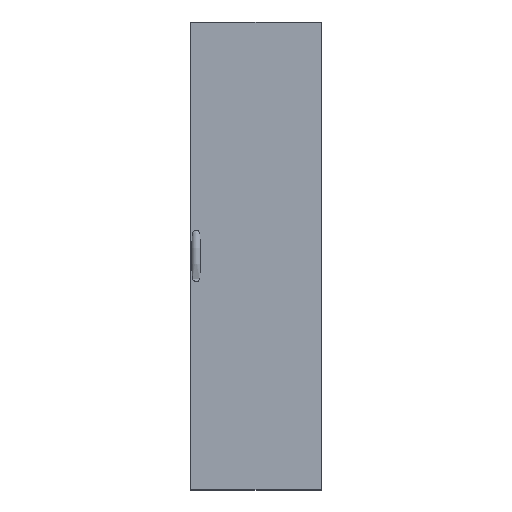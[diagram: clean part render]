
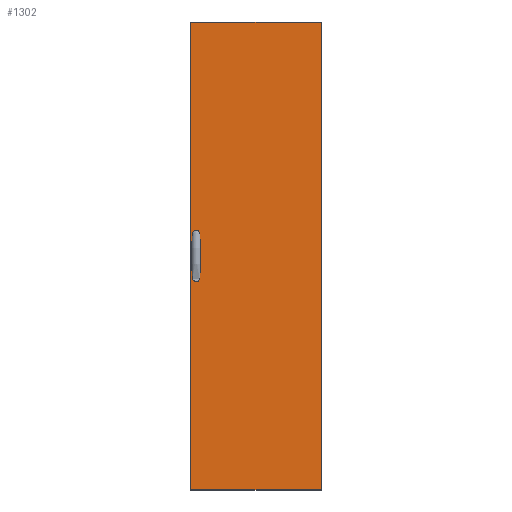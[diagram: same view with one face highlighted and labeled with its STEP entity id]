
A CAD part, top view. The second image highlights one B-rep face of the part: STEP entity #1302.
In plain terms, the highlighted planar face has unit normal (0, 0, 1) as drawn and (0, 0, -1) by its records, which use the part's own axes.
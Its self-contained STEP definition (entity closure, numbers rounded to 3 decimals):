
#1302 = ADVANCED_FACE( '', ( #2670, #2671, #2672, #2673 ), #2674, .F. );
#2670 = FACE_BOUND( '', #4049, .T. );
#2671 = FACE_OUTER_BOUND( '', #4050, .T. );
#2672 = FACE_BOUND( '', #4051, .T. );
#2673 = FACE_BOUND( '', #4052, .T. );
#2674 = PLANE( '', #4053 );
#4049 = EDGE_LOOP( '', ( #7687, #7688, #7689, #7690, #7691, #7692, #7693, #7694, #7695, #7696, #7697, #7698, #7699, #7700, #7701, #7702 ) );
#4050 = EDGE_LOOP( '', ( #7703, #7704, #7705, #7706 ) );
#4051 = EDGE_LOOP( '', ( #7707 ) );
#4052 = EDGE_LOOP( '', ( #7708 ) );
#4053 = AXIS2_PLACEMENT_3D( '', #7709, #7710, #7711 );
#7687 = ORIENTED_EDGE( '', *, *, #8731, .T. );
#7688 = ORIENTED_EDGE( '', *, *, #8638, .T. );
#7689 = ORIENTED_EDGE( '', *, *, #8525, .T. );
#7690 = ORIENTED_EDGE( '', *, *, #9251, .T. );
#7691 = ORIENTED_EDGE( '', *, *, #8866, .T. );
#7692 = ORIENTED_EDGE( '', *, *, #8306, .T. );
#7693 = ORIENTED_EDGE( '', *, *, #8333, .T. );
#7694 = ORIENTED_EDGE( '', *, *, #8890, .T. );
#7695 = ORIENTED_EDGE( '', *, *, #8233, .T. );
#7696 = ORIENTED_EDGE( '', *, *, #8163, .T. );
#7697 = ORIENTED_EDGE( '', *, *, #9010, .T. );
#7698 = ORIENTED_EDGE( '', *, *, #9228, .T. );
#7699 = ORIENTED_EDGE( '', *, *, #9409, .T. );
#7700 = ORIENTED_EDGE( '', *, *, #9167, .T. );
#7701 = ORIENTED_EDGE( '', *, *, #8651, .T. );
#7702 = ORIENTED_EDGE( '', *, *, #9429, .T. );
#7703 = ORIENTED_EDGE( '', *, *, #8878, .T. );
#7704 = ORIENTED_EDGE( '', *, *, #9068, .F. );
#7705 = ORIENTED_EDGE( '', *, *, #9422, .F. );
#7706 = ORIENTED_EDGE( '', *, *, #9128, .T. );
#7707 = ORIENTED_EDGE( '', *, *, #8666, .T. );
#7708 = ORIENTED_EDGE( '', *, *, #9391, .T. );
#7709 = CARTESIAN_POINT( '', ( 249., 1782., -16.8 ) );
#7710 = DIRECTION( '', ( 0., 0., 1. ) );
#7711 = DIRECTION( '', ( 1., 0., 0. ) );
#8163 = EDGE_CURVE( '', #9804, #9805, #9806, .T. );
#8233 = EDGE_CURVE( '', #9920, #9804, #9921, .T. );
#8306 = EDGE_CURVE( '', #10041, #10042, #10043, .T. );
#8333 = EDGE_CURVE( '', #10042, #10088, #10089, .T. );
#8525 = EDGE_CURVE( '', #10412, #10413, #10414, .T. );
#8638 = EDGE_CURVE( '', #10594, #10412, #10595, .T. );
#8651 = EDGE_CURVE( '', #10612, #10613, #10614, .T. );
#8666 = EDGE_CURVE( '', #10637, #10637, #10638, .T. );
#8731 = EDGE_CURVE( '', #10738, #10594, #10739, .T. );
#8866 = EDGE_CURVE( '', #10932, #10041, #10933, .T. );
#8878 = EDGE_CURVE( '', #10951, #10952, #10953, .T. );
#8890 = EDGE_CURVE( '', #10088, #9920, #10969, .T. );
#9010 = EDGE_CURVE( '', #9805, #11137, #11138, .T. );
#9068 = EDGE_CURVE( '', #11211, #10952, #11213, .T. );
#9128 = EDGE_CURVE( '', #11297, #10951, #11298, .T. );
#9167 = EDGE_CURVE( '', #11347, #10612, #11348, .T. );
#9228 = EDGE_CURVE( '', #11137, #11420, #11421, .T. );
#9251 = EDGE_CURVE( '', #10413, #10932, #11447, .T. );
#9391 = EDGE_CURVE( '', #11604, #11604, #11605, .T. );
#9409 = EDGE_CURVE( '', #11420, #11347, #11625, .T. );
#9422 = EDGE_CURVE( '', #11297, #11211, #11638, .T. );
#9429 = EDGE_CURVE( '', #10613, #10738, #11645, .T. );
#9804 = VERTEX_POINT( '', #12173 );
#9805 = VERTEX_POINT( '', #12174 );
#9806 = LINE( '', #12175, #12176 );
#9920 = VERTEX_POINT( '', #12331 );
#9921 = LINE( '', #12332, #12333 );
#10041 = VERTEX_POINT( '', #12498 );
#10042 = VERTEX_POINT( '', #12499 );
#10043 = LINE( '', #12500, #12501 );
#10088 = VERTEX_POINT( '', #12565 );
#10089 = LINE( '', #12566, #12567 );
#10412 = VERTEX_POINT( '', #13065 );
#10413 = VERTEX_POINT( '', #13066 );
#10414 = LINE( '', #13067, #13068 );
#10594 = VERTEX_POINT( '', #13322 );
#10595 = LINE( '', #13323, #13324 );
#10612 = VERTEX_POINT( '', #13349 );
#10613 = VERTEX_POINT( '', #13350 );
#10614 = LINE( '', #13351, #13352 );
#10637 = VERTEX_POINT( '', #13386 );
#10638 = CIRCLE( '', #13387, 2.6 );
#10738 = VERTEX_POINT( '', #13584 );
#10739 = LINE( '', #13585, #13586 );
#10932 = VERTEX_POINT( '', #13899 );
#10933 = LINE( '', #13900, #13901 );
#10951 = VERTEX_POINT( '', #13927 );
#10952 = VERTEX_POINT( '', #13928 );
#10953 = LINE( '', #13929, #13930 );
#10969 = LINE( '', #13954, #13955 );
#11137 = VERTEX_POINT( '', #14200 );
#11138 = LINE( '', #14201, #14202 );
#11211 = VERTEX_POINT( '', #14307 );
#11213 = LINE( '', #14310, #14311 );
#11297 = VERTEX_POINT( '', #14425 );
#11298 = LINE( '', #14426, #14427 );
#11347 = VERTEX_POINT( '', #14501 );
#11348 = LINE( '', #14502, #14503 );
#11420 = VERTEX_POINT( '', #14605 );
#11421 = LINE( '', #14606, #14607 );
#11447 = LINE( '', #14644, #14645 );
#11604 = VERTEX_POINT( '', #14869 );
#11605 = CIRCLE( '', #14870, 2.6 );
#11625 = LINE( '', #14893, #14894 );
#11638 = LINE( '', #14910, #14911 );
#11645 = LINE( '', #14919, #14920 );
#12173 = CARTESIAN_POINT( '', ( 240.95, 956.256, -16.8 ) );
#12174 = CARTESIAN_POINT( '', ( 238.95, 961.75, -16.8 ) );
#12175 = CARTESIAN_POINT( '', ( 240.95, 956.256, -16.8 ) );
#12176 = VECTOR( '', #15138, 1000. );
#12331 = CARTESIAN_POINT( '', ( 240.95, 825.744, -16.8 ) );
#12332 = CARTESIAN_POINT( '', ( 240.95, 825.744, -16.8 ) );
#12333 = VECTOR( '', #15219, 1000. );
#12498 = CARTESIAN_POINT( '', ( 233.7, 828., -16.8 ) );
#12499 = CARTESIAN_POINT( '', ( 233.7, 820.25, -16.8 ) );
#12500 = CARTESIAN_POINT( '', ( 233.7, 828., -16.8 ) );
#12501 = VECTOR( '', #15292, 1000. );
#12565 = CARTESIAN_POINT( '', ( 238.95, 820.25, -16.8 ) );
#12566 = CARTESIAN_POINT( '', ( 233.7, 820.25, -16.8 ) );
#12567 = VECTOR( '', #15318, 1000. );
#13065 = CARTESIAN_POINT( '', ( 217.45, 820.25, -16.8 ) );
#13066 = CARTESIAN_POINT( '', ( 222.7, 820.25, -16.8 ) );
#13067 = CARTESIAN_POINT( '', ( 217.45, 820.25, -16.8 ) );
#13068 = VECTOR( '', #15532, 1000. );
#13322 = CARTESIAN_POINT( '', ( 215.45, 825.744, -16.8 ) );
#13323 = CARTESIAN_POINT( '', ( 215.45, 825.744, -16.8 ) );
#13324 = VECTOR( '', #15640, 1000. );
#13349 = CARTESIAN_POINT( '', ( 222.7, 961.75, -16.8 ) );
#13350 = CARTESIAN_POINT( '', ( 217.45, 961.75, -16.8 ) );
#13351 = CARTESIAN_POINT( '', ( 222.7, 961.75, -16.8 ) );
#13352 = VECTOR( '', #15649, 1000. );
#13386 = CARTESIAN_POINT( '', ( 230.8, 961., -16.8 ) );
#13387 = AXIS2_PLACEMENT_3D( '', #15661, #15662, #15663 );
#13584 = CARTESIAN_POINT( '', ( 215.45, 956.256, -16.8 ) );
#13585 = CARTESIAN_POINT( '', ( 215.45, 956.256, -16.8 ) );
#13586 = VECTOR( '', #15724, 1000. );
#13899 = CARTESIAN_POINT( '', ( 222.7, 828., -16.8 ) );
#13900 = CARTESIAN_POINT( '', ( 222.7, 828., -16.8 ) );
#13901 = VECTOR( '', #15840, 1000. );
#13927 = CARTESIAN_POINT( '', ( 249., 0., -16.8 ) );
#13928 = CARTESIAN_POINT( '', ( -249., 0., -16.8 ) );
#13929 = CARTESIAN_POINT( '', ( 249., 0., -16.8 ) );
#13930 = VECTOR( '', #15849, 1000. );
#13954 = CARTESIAN_POINT( '', ( 238.95, 820.25, -16.8 ) );
#13955 = VECTOR( '', #15858, 1000. );
#14200 = CARTESIAN_POINT( '', ( 233.7, 961.75, -16.8 ) );
#14201 = CARTESIAN_POINT( '', ( 238.95, 961.75, -16.8 ) );
#14202 = VECTOR( '', #15978, 1000. );
#14307 = CARTESIAN_POINT( '', ( -249., 1782., -16.8 ) );
#14310 = CARTESIAN_POINT( '', ( -249., 1782., -16.8 ) );
#14311 = VECTOR( '', #16030, 1000. );
#14425 = CARTESIAN_POINT( '', ( 249., 1782., -16.8 ) );
#14426 = CARTESIAN_POINT( '', ( 249., 1782., -16.8 ) );
#14427 = VECTOR( '', #16097, 1000. );
#14501 = CARTESIAN_POINT( '', ( 222.7, 954., -16.8 ) );
#14502 = CARTESIAN_POINT( '', ( 222.7, 954., -16.8 ) );
#14503 = VECTOR( '', #16123, 1000. );
#14605 = CARTESIAN_POINT( '', ( 233.7, 954., -16.8 ) );
#14606 = CARTESIAN_POINT( '', ( 233.7, 961.75, -16.8 ) );
#14607 = VECTOR( '', #16163, 1000. );
#14644 = CARTESIAN_POINT( '', ( 222.7, 820.25, -16.8 ) );
#14645 = VECTOR( '', #16181, 1000. );
#14869 = CARTESIAN_POINT( '', ( 230.8, 821., -16.8 ) );
#14870 = AXIS2_PLACEMENT_3D( '', #16276, #16277, #16278 );
#14893 = CARTESIAN_POINT( '', ( 233.7, 954., -16.8 ) );
#14894 = VECTOR( '', #16294, 1000. );
#14910 = CARTESIAN_POINT( '', ( 249., 1782., -16.8 ) );
#14911 = VECTOR( '', #16298, 1000. );
#14919 = CARTESIAN_POINT( '', ( 217.45, 961.75, -16.8 ) );
#14920 = VECTOR( '', #16300, 1000. );
#15138 = DIRECTION( '', ( -0.342, 0.94, 0. ) );
#15219 = DIRECTION( '', ( 0., 1., 0. ) );
#15292 = DIRECTION( '', ( 0., -1., 0. ) );
#15318 = DIRECTION( '', ( 1., 0., 0. ) );
#15532 = DIRECTION( '', ( 1., 0., 0. ) );
#15640 = DIRECTION( '', ( 0.342, -0.94, 0. ) );
#15649 = DIRECTION( '', ( -1., 0., 0. ) );
#15661 = CARTESIAN_POINT( '', ( 228.2, 961., -16.8 ) );
#15662 = DIRECTION( '', ( 0., 0., 1. ) );
#15663 = DIRECTION( '', ( 1., 0., 0. ) );
#15724 = DIRECTION( '', ( 0., -1., 0. ) );
#15840 = DIRECTION( '', ( 1., 0., 0. ) );
#15849 = DIRECTION( '', ( -1., 0., 0. ) );
#15858 = DIRECTION( '', ( 0.342, 0.94, 0. ) );
#15978 = DIRECTION( '', ( -1., 0., 0. ) );
#16030 = DIRECTION( '', ( 0., -1., 0. ) );
#16097 = DIRECTION( '', ( 0., -1., 0. ) );
#16123 = DIRECTION( '', ( 0., 1., 0. ) );
#16163 = DIRECTION( '', ( 0., -1., 0. ) );
#16181 = DIRECTION( '', ( 0., 1., 0. ) );
#16276 = CARTESIAN_POINT( '', ( 228.2, 821., -16.8 ) );
#16277 = DIRECTION( '', ( 0., 0., 1. ) );
#16278 = DIRECTION( '', ( 1., 0., 0. ) );
#16294 = DIRECTION( '', ( -1., 0., 0. ) );
#16298 = DIRECTION( '', ( -1., 0., 0. ) );
#16300 = DIRECTION( '', ( -0.342, -0.94, 0. ) );
